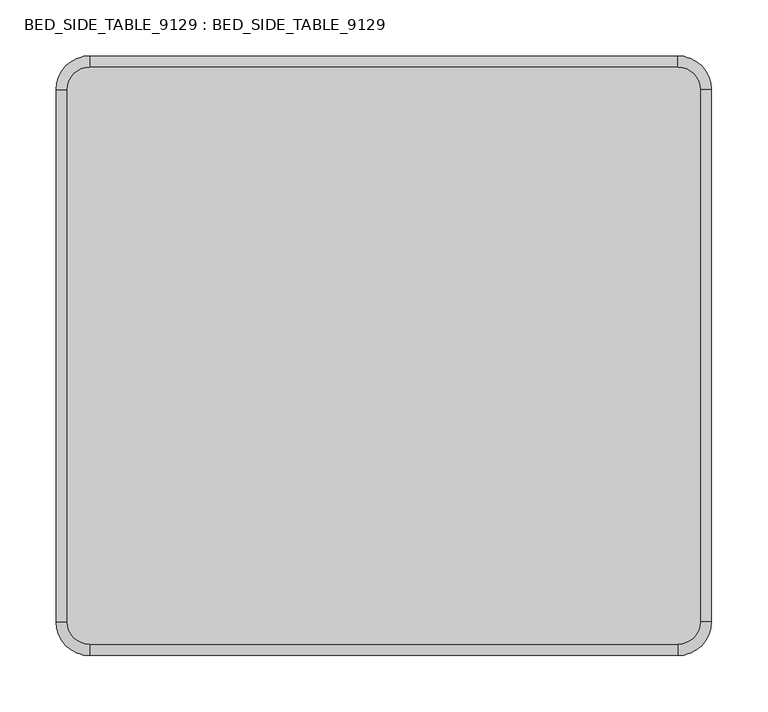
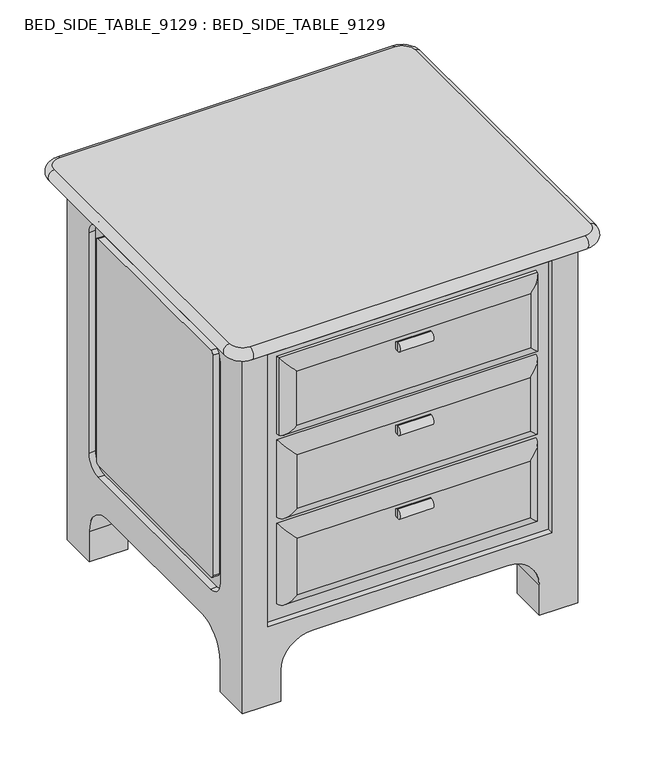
"""IFC4 building model written with IfcOpenShell, lengths in millimetres: furniture geometry, BED_SIDE_TABLE_9129 : BED_SIDE_TABLE_9129."""

from ifc_helpers import new_model, si_unit, point, frame, origin, place, context, project, spatial, polyline, circle_curve, ellipse_curve, trimmed, source, transform, mapped, element, save
from ifc_brep_helpers import plane_surface, cylinder_surface, revolved_surface, advanced_brep


def bed_side_table_9129_bed_side_table_9129_b31ec6e2(model_context):
    return source(origin(), model_context, "Body", "AdvancedBrep", [
        advanced_brep(
        [(64.1710576, -215.7220246, 258.3333333), (64.1710576, -215.7220246, 265.7120474), (64.1710576, -215.7220246, 250.9546193), (11.6566154, -215.7220246, 250.9546193), (11.6566154, -215.7220246, 265.7120474), (11.6566154, -215.7220246, 258.3333333)],
        [
            (0, 1),
            (1, 2, circle_curve(frame((64.1710576, -215.7220246, 258.3333333), z_axis=(1.0, 0.0, 0.0), x_axis=(0.0, 0.0, 1.0)), 7.378714)),
            (2, 0),
            (2, 1, circle_curve(frame((64.1710576, -215.7220246, 258.3333333), z_axis=(1.0, 0.0, 0.0), x_axis=(0.0, 0.0, 1.0)), 7.378714)),
            (3, 4, circle_curve(frame((11.6566154, -215.7220246, 258.3333333), z_axis=(-1.0, 0.0, 0.0), x_axis=(0.0, 0.0, 1.0)), 7.378714)),
            (4, 5),
            (5, 3),
            (4, 3, circle_curve(frame((11.6566154, -215.7220246, 258.3333333), z_axis=(-1.0, 0.0, 0.0), x_axis=(0.0, 0.0, 1.0)), 7.378714)),
            (1, 4),
            (3, 2),
        ],
        [
            plane_surface(frame((64.1710576, -215.7220246, 258.3333333), z_axis=(1.0, 0.0, 0.0), x_axis=(0.0, 0.0, 1.0))),
            plane_surface(frame((11.6566154, -215.7220246, 258.3333333), z_axis=(-1.0, 0.0, 0.0), x_axis=(0.0, 0.0, 1.0))),
            cylinder_surface(frame((36.6566154, -215.7220246, 258.3333333), z_axis=(1.0, 0.0, 0.0), x_axis=(0.0, 0.0, 1.0)), 7.378714),
        ],
        [
            (0, [[1, 2, 3]]),
            (0, [[-3, 4, -1]]),
            (1, [[5, 6, 7]]),
            (1, [[8, -7, -6]]),
            (2, [[-2, 9, -5, 10]]),
            (2, [[-4, -10, -8, -9]]),
        ],
    ),
        advanced_brep(
        [(64.1710576, -215.7220246, 396.6666667), (64.1710576, -215.7220246, 404.0453807), (64.1710576, -215.7220246, 389.2879526), (11.6566154, -215.7220246, 389.2879526), (11.6566154, -215.7220246, 404.0453807), (11.6566154, -215.7220246, 396.6666667)],
        [
            (0, 1),
            (1, 2, circle_curve(frame((64.1710576, -215.7220246, 396.6666667), z_axis=(1.0, 0.0, 0.0), x_axis=(0.0, 0.0, 1.0)), 7.378714)),
            (2, 0),
            (2, 1, circle_curve(frame((64.1710576, -215.7220246, 396.6666667), z_axis=(1.0, 0.0, 0.0), x_axis=(0.0, 0.0, 1.0)), 7.378714)),
            (3, 4, circle_curve(frame((11.6566154, -215.7220246, 396.6666667), z_axis=(-1.0, 0.0, 0.0), x_axis=(0.0, 0.0, 1.0)), 7.378714)),
            (4, 5),
            (5, 3),
            (4, 3, circle_curve(frame((11.6566154, -215.7220246, 396.6666667), z_axis=(-1.0, 0.0, 0.0), x_axis=(0.0, 0.0, 1.0)), 7.378714)),
            (1, 4),
            (3, 2),
        ],
        [
            plane_surface(frame((64.1710576, -215.7220246, 396.6666667), z_axis=(1.0, 0.0, 0.0), x_axis=(0.0, 0.0, 1.0))),
            plane_surface(frame((11.6566154, -215.7220246, 396.6666667), z_axis=(-1.0, 0.0, 0.0), x_axis=(0.0, 0.0, 1.0))),
            cylinder_surface(frame((36.6566154, -215.7220246, 396.6666667), z_axis=(1.0, 0.0, 0.0), x_axis=(0.0, 0.0, 1.0)), 7.378714),
        ],
        [
            (0, [[1, 2, 3]]),
            (0, [[-3, 4, -1]]),
            (1, [[5, 6, 7]]),
            (1, [[8, -7, -6]]),
            (2, [[-2, 9, -5, 10]]),
            (2, [[-4, -10, -8, -9]]),
        ],
    ),
        advanced_brep(
        [(64.1710576, -215.7220246, 535.0), (64.1710576, -215.7220246, 542.378714), (64.1710576, -215.7220246, 527.621286), (11.6566154, -215.7220246, 527.621286), (11.6566154, -215.7220246, 542.378714), (11.6566154, -215.7220246, 535.0)],
        [
            (0, 1),
            (1, 2, circle_curve(frame((64.1710576, -215.7220246, 535.0), z_axis=(1.0, 0.0, 0.0), x_axis=(0.0, 0.0, 1.0)), 7.378714)),
            (2, 0),
            (2, 1, circle_curve(frame((64.1710576, -215.7220246, 535.0), z_axis=(1.0, 0.0, 0.0), x_axis=(0.0, 0.0, 1.0)), 7.378714)),
            (3, 4, circle_curve(frame((11.6566154, -215.7220246, 535.0), z_axis=(-1.0, 0.0, 0.0), x_axis=(0.0, 0.0, 1.0)), 7.378714)),
            (4, 5),
            (5, 3),
            (4, 3, circle_curve(frame((11.6566154, -215.7220246, 535.0), z_axis=(-1.0, 0.0, 0.0), x_axis=(0.0, 0.0, 1.0)), 7.378714)),
            (1, 4),
            (3, 2),
        ],
        [
            plane_surface(frame((64.1710576, -215.7220246, 535.0), z_axis=(1.0, 0.0, 0.0), x_axis=(0.0, 0.0, 1.0))),
            plane_surface(frame((11.6566154, -215.7220246, 535.0), z_axis=(-1.0, 0.0, 0.0), x_axis=(0.0, 0.0, 1.0))),
            cylinder_surface(frame((36.6566154, -215.7220246, 535.0), z_axis=(1.0, 0.0, 0.0), x_axis=(0.0, 0.0, 1.0)), 7.378714),
        ],
        [
            (0, [[1, 2, 3]]),
            (0, [[-3, 4, -1]]),
            (1, [[5, 6, 7]]),
            (1, [[8, -7, -6]]),
            (2, [[-2, 9, -5, 10]]),
            (2, [[-4, -10, -8, -9]]),
        ],
    ),
        advanced_brep(
        [(242.5, -190.0292073, 565.0), (242.5, -190.0292073, 436.6666667), (-162.5, -190.0292073, 436.6666667), (-162.5, -190.0292073, 565.0), (-143.0943818, -210.0292073, 545.5943818), (-143.0943818, -210.0292073, 456.0722849), (223.0943818, -210.0292073, 456.0722849), (223.0943818, -210.0292073, 545.5943818), (242.5, -194.8688336, 565.0), (242.5, -194.8688336, 436.6666667), (-162.5, -194.8688336, 436.6666667), (-162.5, -194.8688336, 565.0)],
        [
            (0, 1),
            (1, 2),
            (2, 3),
            (3, 0),
            (4, 5),
            (5, 6),
            (6, 7),
            (7, 4),
            (0, 8),
            (8, 9),
            (9, 1),
            (9, 10),
            (10, 2),
            (10, 11),
            (11, 3),
            (11, 8),
            (10, 5, ellipse_curve(frame((-143.0943818, -190.0292073, 456.0722849), z_axis=(-0.7071067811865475, 0.0, 0.7071067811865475), x_axis=(-0.7071067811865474, 0.0, -0.7071067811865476)), 28.2842712, 20.0)),
            (4, 11, ellipse_curve(frame((-143.0943818, -190.0292073, 545.5943818), z_axis=(-0.7071067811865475, 0.0, -0.7071067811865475), x_axis=(0.7071067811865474, 0.0, -0.7071067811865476)), 28.2842712, 20.0)),
            (9, 6, ellipse_curve(frame((223.0943818, -190.0292073, 456.0722849), z_axis=(-0.7071067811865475, 0.0, -0.7071067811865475), x_axis=(0.7071067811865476, 0.0, -0.7071067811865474)), 28.2842712, 20.0)),
            (8, 7, ellipse_curve(frame((223.0943818, -190.0292073, 545.5943818), z_axis=(0.7071067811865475, 0.0, -0.7071067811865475), x_axis=(0.7071067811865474, 0.0, 0.7071067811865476)), 28.2842712, 20.0)),
        ],
        [
            plane_surface(frame((242.5, -190.0292073, 565.0), z_axis=(0.0, 1.0, 0.0), x_axis=(0.0, 0.0, -1.0))),
            plane_surface(frame((242.5, -210.0292073, 565.0), z_axis=(0.0, -1.0, 0.0), x_axis=(0.0, 0.0, 1.0))),
            plane_surface(frame((242.5, -190.0292073, 565.0), z_axis=(1.0, 0.0, 0.0), x_axis=(0.0, -1.0, 0.0))),
            plane_surface(frame((242.5, -190.0292073, 436.6666667), z_axis=(0.0, 0.0, -1.0), x_axis=(0.0, -1.0, 0.0))),
            plane_surface(frame((-162.5, -190.0292073, 436.6666667), z_axis=(-1.0, 0.0, 0.0), x_axis=(0.0, -1.0, 0.0))),
            plane_surface(frame((-162.5, -190.0292073, 565.0), z_axis=(0.0, 0.0, 1.0), x_axis=(0.0, -1.0, 0.0))),
            cylinder_surface(frame((-143.0943818, -190.0292073, 565.0), z_axis=(0.0, 0.0, -1.0), x_axis=(0.0, -1.0, 0.0)), 20.0),
            cylinder_surface(frame((-162.5, -190.0292073, 456.0722849), z_axis=(1.0, 0.0, 0.0), x_axis=(0.0, -1.0, 0.0)), 20.0),
            cylinder_surface(frame((223.0943818, -190.0292073, 436.6666667), z_axis=(0.0, 0.0, 1.0), x_axis=(0.0, -1.0, 0.0)), 20.0),
            cylinder_surface(frame((242.5, -190.0292073, 545.5943818), z_axis=(-1.0, 0.0, 0.0), x_axis=(0.0, -1.0, 0.0)), 20.0),
        ],
        [
            (0, [[1, 2, 3, 4]]),
            (1, [[5, 6, 7, 8]]),
            (2, [[-1, 9, 10, 11]]),
            (3, [[-2, -11, 12, 13]]),
            (4, [[-3, -13, 14, 15]]),
            (5, [[-4, -15, 16, -9]]),
            (6, [[17, -5, 18, -14]]),
            (7, [[19, -6, -17, -12]]),
            (8, [[20, -7, -19, -10]]),
            (9, [[-20, -16, -18, -8]]),
        ],
    ),
        advanced_brep(
        [(-162.5, -190.0292073, 298.3333333), (-162.5, -190.0292073, 426.6666667), (242.5, -190.0292073, 426.6666667), (242.5, -190.0292073, 298.3333333), (-142.5, -210.0292073, 406.6666667), (-142.5, -210.0292073, 318.3333333), (222.5, -210.0292073, 318.3333333), (222.5, -210.0292073, 406.6666667)],
        [
            (0, 1),
            (1, 2),
            (2, 3),
            (3, 0),
            (4, 5),
            (5, 6),
            (6, 7),
            (7, 4),
            (0, 5, ellipse_curve(frame((-142.5, -190.0292073, 318.3333333), z_axis=(-0.7071067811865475, 0.0, 0.7071067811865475), x_axis=(-0.7071067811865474, 0.0, -0.7071067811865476)), 28.2842712, 20.0)),
            (4, 1, ellipse_curve(frame((-142.5, -190.0292073, 406.6666667), z_axis=(-0.7071067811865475, 0.0, -0.7071067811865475), x_axis=(0.7071067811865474, 0.0, -0.7071067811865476)), 28.2842712, 20.0)),
            (3, 6, ellipse_curve(frame((222.5, -190.0292073, 318.3333333), z_axis=(-0.7071067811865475, 0.0, -0.7071067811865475), x_axis=(0.7071067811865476, 0.0, -0.7071067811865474)), 28.2842712, 20.0)),
            (2, 7, ellipse_curve(frame((222.5, -190.0292073, 406.6666667), z_axis=(0.7071067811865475, 0.0, -0.7071067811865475), x_axis=(0.7071067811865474, 0.0, 0.7071067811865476)), 28.2842712, 20.0)),
        ],
        [
            plane_surface(frame((242.5, -190.0292073, 565.0), z_axis=(0.0, 1.0, 0.0), x_axis=(0.0, 0.0, -1.0))),
            plane_surface(frame((242.5, -210.0292073, 565.0), z_axis=(0.0, -1.0, 0.0), x_axis=(0.0, 0.0, 1.0))),
            cylinder_surface(frame((-142.5, -190.0292073, 426.6666667), z_axis=(0.0, 0.0, -1.0), x_axis=(0.0, -1.0, 0.0)), 20.0),
            cylinder_surface(frame((-162.5, -190.0292073, 318.3333333), z_axis=(1.0, 0.0, 0.0), x_axis=(0.0, -1.0, 0.0)), 20.0),
            cylinder_surface(frame((222.5, -190.0292073, 298.3333333), z_axis=(0.0, 0.0, 1.0), x_axis=(0.0, -1.0, 0.0)), 20.0),
            cylinder_surface(frame((242.5, -190.0292073, 406.6666667), z_axis=(-1.0, 0.0, 0.0), x_axis=(0.0, -1.0, 0.0)), 20.0),
        ],
        [
            (0, [[1, 2, 3, 4]]),
            (1, [[5, 6, 7, 8]]),
            (2, [[9, -5, 10, -1]]),
            (3, [[-9, -4, 11, -6]]),
            (4, [[-11, -3, 12, -7]]),
            (5, [[-10, -8, -12, -2]]),
        ],
    ),
        advanced_brep(
        [(-162.5, -190.0292073, 155.0), (-162.5, -190.0292073, 288.3333333), (242.5, -190.0292073, 288.3333333), (242.5, -190.0292073, 155.0), (-142.5, -210.0292073, 268.3333333), (-142.5, -210.0292073, 175.0), (222.5, -210.0292073, 175.0), (222.5, -210.0292073, 268.3333333)],
        [
            (0, 1),
            (1, 2),
            (2, 3),
            (3, 0),
            (4, 5),
            (5, 6),
            (6, 7),
            (7, 4),
            (0, 5, ellipse_curve(frame((-142.5, -190.0292073, 175.0), z_axis=(-0.7071067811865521, 0.0, 0.7071067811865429), x_axis=(-0.7071067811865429, 0.0, -0.7071067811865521)), 28.2842712, 20.0)),
            (4, 1, ellipse_curve(frame((-142.5, -190.0292073, 268.3333333), z_axis=(-0.707106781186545, 0.0, -0.7071067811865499), x_axis=(0.7071067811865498, 0.0, -0.7071067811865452)), 28.2842712, 20.0)),
            (3, 6, ellipse_curve(frame((222.5, -190.0292073, 175.0), z_axis=(-0.7071067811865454, 0.0, -0.7071067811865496), x_axis=(0.7071067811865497, 0.0, -0.7071067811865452)), 28.2842712, 20.0)),
            (2, 7, ellipse_curve(frame((222.5, -190.0292073, 268.3333333), z_axis=(0.7071067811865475, 0.0, -0.7071067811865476), x_axis=(0.7071067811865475, 0.0, 0.7071067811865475)), 28.2842712, 20.0)),
        ],
        [
            plane_surface(frame((242.5, -190.0292073, 565.0), z_axis=(0.0, 1.0, 0.0), x_axis=(0.0, 0.0, -1.0))),
            plane_surface(frame((242.5, -210.0292073, 565.0), z_axis=(0.0, -1.0, 0.0), x_axis=(0.0, 0.0, 1.0))),
            cylinder_surface(frame((-142.5, -190.0292073, 288.3333333), z_axis=(0.0, 0.0, -1.0), x_axis=(0.0, -1.0, 0.0)), 20.0),
            cylinder_surface(frame((-162.5, -190.0292073, 175.0), z_axis=(1.0, 0.0, 0.0), x_axis=(0.0, -1.0, 0.0)), 20.0),
            cylinder_surface(frame((222.5, -190.0292073, 155.0), z_axis=(0.0, 0.0, 1.0), x_axis=(0.0, -1.0, 0.0)), 20.0),
            cylinder_surface(frame((242.5, -190.0292073, 268.3333333), z_axis=(-1.0, 0.0, 0.0), x_axis=(0.0, -1.0, 0.0)), 20.0),
        ],
        [
            (0, [[1, 2, 3, 4]]),
            (1, [[5, 6, 7, 8]]),
            (2, [[9, -5, 10, -1]]),
            (3, [[-9, -4, 11, -6]]),
            (4, [[-11, -3, 12, -7]]),
            (5, [[-10, -8, -12, -2]]),
        ],
    ),
        advanced_brep(
        [(-242.5, 274.9707927, 600.0), (-222.5, 294.9707927, 600.0), (302.5, 294.9707927, 600.0), (322.5, 274.9707927, 600.0), (322.5, -200.0292073, 600.0), (302.5, -220.0292073, 600.0), (-222.5, -220.0292073, 600.0), (-242.5, -200.0292073, 600.0), (-222.5, 294.9707927, 620.0), (-242.5, 274.9707927, 620.0), (-242.5, -200.0292073, 620.0), (-222.5, -220.0292073, 620.0), (302.5, -220.0292073, 620.0), (322.5, -200.0292073, 620.0), (322.5, 274.9707927, 620.0), (302.5, 294.9707927, 620.0), (-222.5, 304.9707927, 610.0000125), (-252.5, 274.9707927, 610.0000126), (-252.5, -200.0292073, 610.0), (-222.5, -230.0292073, 610.0000126), (302.5, -230.0292073, 610.0), (332.5, -200.0292073, 610.0000125), (332.5, 274.9707927, 610.0), (302.5, 304.9707927, 610.00001)],
        [
            (0, 1, circle_curve(frame((-222.5, 274.9707927, 600.0), z_axis=(0.0, 0.0, -1.0), x_axis=(0.0, 1.0, 0.0)), 20.0)),
            (1, 2),
            (2, 3, circle_curve(frame((302.5, 274.9707927, 600.0), z_axis=(0.0, 0.0, -1.0), x_axis=(1.0, 0.0, 0.0)), 20.0)),
            (3, 4),
            (4, 5, circle_curve(frame((302.5, -200.0292073, 600.0), z_axis=(0.0, 0.0, -1.0), x_axis=(0.0, -1.0, 0.0)), 20.0)),
            (5, 6),
            (6, 7, circle_curve(frame((-222.5, -200.0292073, 600.0), z_axis=(0.0, 0.0, -1.0), x_axis=(-1.0, 0.0, 0.0)), 20.0)),
            (7, 0),
            (8, 9, circle_curve(frame((-222.5, 274.9707927, 620.0), z_axis=(0.0, 0.0, 1.0), x_axis=(0.0, 1.0, 0.0)), 20.0)),
            (9, 10),
            (10, 11, circle_curve(frame((-222.5, -200.0292073, 620.0), z_axis=(0.0, 0.0, 1.0), x_axis=(-1.0, 0.0, 0.0)), 20.0)),
            (11, 12),
            (12, 13, circle_curve(frame((302.5, -200.0292073, 620.0), z_axis=(0.0, 0.0, 1.0), x_axis=(0.0, -1.0, 0.0)), 20.0)),
            (13, 14),
            (14, 15, circle_curve(frame((302.5, 274.9707927, 620.0), z_axis=(0.0, 0.0, 1.0), x_axis=(1.0, 0.0, 0.0)), 20.0)),
            (15, 8),
            (8, 16, circle_curve(frame((-222.5, 294.9707927, 610.0), z_axis=(-1.0, 0.0, 0.0), x_axis=(0.0, -1.0, 0.0)), 10.0)),
            (16, 1, circle_curve(frame((-222.5, 294.9707927, 610.0), z_axis=(-1.0, 0.0, 0.0), x_axis=(0.0, -1.0, 0.0)), 10.0)),
            (0, 17, circle_curve(frame((-242.5, 274.9707927, 610.0), z_axis=(0.0, 1.0, 0.0), x_axis=(1.0, 0.0, 0.0)), 10.0)),
            (17, 9, circle_curve(frame((-242.5, 274.9707927, 610.0), z_axis=(0.0, 1.0, 0.0), x_axis=(1.0, 0.0, 0.0)), 10.0)),
            (7, 18, circle_curve(frame((-242.5, -200.0292073, 610.0), z_axis=(0.0, 1.0, 0.0), x_axis=(1.0, 0.0, 0.0)), 10.0)),
            (18, 10, circle_curve(frame((-242.5, -200.0292073, 610.0), z_axis=(0.0, 1.0, 0.0), x_axis=(1.0, 0.0, 0.0)), 10.0)),
            (6, 19, circle_curve(frame((-222.5, -220.0292073, 610.0), z_axis=(-1.0, 0.0, 0.0), x_axis=(0.0, 1.0, 0.0)), 10.0)),
            (19, 11, circle_curve(frame((-222.5, -220.0292073, 610.0), z_axis=(-1.0, 0.0, 0.0), x_axis=(0.0, 1.0, 0.0)), 10.0)),
            (5, 20, circle_curve(frame((302.5, -220.0292073, 610.0), z_axis=(-1.0, 0.0, 0.0), x_axis=(0.0, 1.0, 0.0)), 10.0)),
            (20, 12, circle_curve(frame((302.5, -220.0292073, 610.0), z_axis=(-1.0, 0.0, 0.0), x_axis=(0.0, 1.0, 0.0)), 10.0)),
            (4, 21, circle_curve(frame((322.5, -200.0292073, 610.0), z_axis=(0.0, -1.0, 0.0), x_axis=(-1.0, 0.0, 0.0)), 10.0)),
            (21, 13, circle_curve(frame((322.5, -200.0292073, 610.0), z_axis=(0.0, -1.0, 0.0), x_axis=(-1.0, 0.0, 0.0)), 10.0)),
            (3, 22, circle_curve(frame((322.5, 274.9707927, 610.0), z_axis=(0.0, -1.0, 0.0), x_axis=(-1.0, 0.0, 0.0)), 10.0)),
            (22, 14, circle_curve(frame((322.5, 274.9707927, 610.0), z_axis=(0.0, -1.0, 0.0), x_axis=(-1.0, 0.0, 0.0)), 10.0)),
            (2, 23, circle_curve(frame((302.5, 294.9707927, 610.0), z_axis=(1.0, 0.0, 0.0), x_axis=(0.0, -1.0, 0.0)), 10.0)),
            (23, 15, circle_curve(frame((302.5, 294.9707927, 610.0), z_axis=(1.0, 0.0, 0.0), x_axis=(0.0, -1.0, 0.0)), 10.0)),
        ],
        [
            plane_surface(frame((-222.5, 304.9707927, 600.0), z_axis=(0.0, 0.0, -1.0), x_axis=(1.0, 0.0, 0.0))),
            plane_surface(frame((-222.5, 304.9707927, 620.0), z_axis=(0.0, 0.0, 1.0), x_axis=(-1.0, 0.0, 0.0))),
            revolved_surface(trimmed(ellipse_curve(frame((-222.5, 294.9707927, 610.0), z_axis=(1.0, 0.0, 0.0), x_axis=(0.0, -1.0, 0.0)), 10.0, 10.0), [point((-222.5, 294.9707927, 600.0))], [point((-222.5, 294.9707927, 620.0))], True, "CARTESIAN"), (-222.5, 274.9707927, 620.0), (0.0, 0.0, 1.0)),
            cylinder_surface(frame((-242.5, 274.9707927, 610.0), z_axis=(0.0, -1.0, 0.0), x_axis=(1.0, 0.0, 0.0)), 10.0),
            revolved_surface(trimmed(ellipse_curve(frame((-242.5, -200.0292073, 610.0), z_axis=(0.0, 1.0, 0.0), x_axis=(1.0, 0.0, 0.0)), 10.0, 10.0), [point((-242.5, -200.0292073, 600.0))], [point((-242.5, -200.0292073, 620.0))], True, "CARTESIAN"), (-222.5, -200.0292073, 620.0), (0.0, 0.0, 1.0)),
            cylinder_surface(frame((-222.5, -220.0292073, 610.0), z_axis=(1.0, 0.0, 0.0), x_axis=(0.0, 1.0, 0.0)), 10.0),
            revolved_surface(trimmed(ellipse_curve(frame((302.5, -220.0292073, 610.0), z_axis=(-1.0, 0.0, 0.0), x_axis=(0.0, 1.0, 0.0)), 10.0, 10.0), [point((302.5, -220.0292073, 600.0))], [point((302.5, -220.0292073, 620.0))], True, "CARTESIAN"), (302.5, -200.0292073, 620.0), (0.0, 0.0, 1.0)),
            cylinder_surface(frame((322.5, -200.0292073, 610.0), z_axis=(0.0, 1.0, 0.0), x_axis=(-1.0, 0.0, 0.0)), 10.0),
            revolved_surface(trimmed(ellipse_curve(frame((322.5, 274.9707927, 610.0), z_axis=(0.0, -1.0, 0.0), x_axis=(-1.0, 0.0, 0.0)), 10.0, 10.0), [point((322.5, 274.9707927, 600.0))], [point((322.5, 274.9707927, 620.0))], True, "CARTESIAN"), (302.5, 274.9707927, 620.0), (0.0, 0.0, 1.0)),
            cylinder_surface(frame((302.5, 294.9707927, 610.0), z_axis=(-1.0, 0.0, 0.0), x_axis=(0.0, -1.0, 0.0)), 10.0),
        ],
        [
            (0, [[1, 2, 3, 4, 5, 6, 7, 8]]),
            (1, [[9, 10, 11, 12, 13, 14, 15, 16]]),
            (2, [[17, 18, -1, 19, 20, -9]]),
            (3, [[-19, -8, 21, 22, -10, -20]]),
            (4, [[-21, -7, 23, 24, -11, -22]]),
            (5, [[-23, -6, 25, 26, -12, -24]]),
            (6, [[-25, -5, 27, 28, -13, -26]]),
            (7, [[-27, -4, 29, 30, -14, -28]]),
            (8, [[31, 32, -15, -30, -29, -3]]),
            (9, [[-31, -2, -18, -17, -16, -32]]),
        ],
    ),
        advanced_brep(
        [(302.5, 274.9707927, 600.0), (302.5, 274.9707927, 0.0), (242.5, 274.9707927, 0.0), (242.5, 274.9707927, 50.0), (192.5, 274.9707927, 100.0), (-112.5, 274.9707927, 100.0), (-162.5, 274.9707927, 50.0), (-162.5, 274.9707927, 0.0), (-222.5, 274.9707927, 0.0), (-222.5, 274.9707927, 600.0), (302.5, -200.0292073, 600.0), (-222.5, -200.0292073, 600.0), (-222.5, -200.0292073, 0.0), (-162.5, -200.0292073, 0.0), (-162.5, -200.0292073, 50.0), (-112.5, -200.0292073, 100.0), (192.5, -200.0292073, 100.0), (242.5, -200.0292073, 50.0), (242.5, -200.0292073, 0.0), (302.5, -200.0292073, 0.0), (-182.5, -200.0292073, 580.0), (262.5, -200.0292073, 580.0), (262.5, -200.0292073, 130.0), (-182.5, -200.0292073, 130.0), (302.5, -140.0292073, 0.0), (302.5, -140.0292073, 50.0), (302.5, -90.0292073, 100.0), (302.5, 164.9707927, 100.0), (302.5, 214.9707927, 50.0), (302.5, 214.9707927, 0.0), (302.5, -115.0292073, 570.0), (302.5, 189.9707927, 570.0), (302.5, 214.9707927, 545.0), (302.5, 214.9707927, 180.0), (302.5, 189.9707927, 155.0), (302.5, -115.0292073, 155.0), (302.5, -140.0292073, 180.0), (302.5, -140.0292073, 545.0), (302.5, 189.9707927, 550.0), (302.5, -115.0292073, 550.0), (302.5, -120.0292073, 545.0), (302.5, -120.0292073, 180.0), (302.5, -115.0292073, 175.0), (302.5, 189.9707927, 175.0), (302.5, 194.9707927, 180.0), (302.5, 194.9707927, 545.0), (242.5, 214.9707927, 0.0), (-162.5, 214.9707927, 0.0), (-222.5, 214.9707927, 0.0), (-222.5, -140.0292073, 0.0), (-162.5, -140.0292073, 0.0), (242.5, -140.0292073, 0.0), (-222.5, 214.9707927, 50.0), (-222.5, 164.9707927, 100.0), (-222.5, -90.0292073, 100.0), (-222.5, -140.0292073, 50.0), (-222.5, 189.9707927, 570.0), (-222.5, -115.0292073, 570.0), (-222.5, -140.0292073, 545.0), (-222.5, -140.0292073, 180.0), (-222.5, -115.0292073, 155.0), (-222.5, 189.9707927, 155.0), (-222.5, 214.9707927, 180.0), (-222.5, 214.9707927, 545.0), (-222.5, -115.0292073, 550.0), (-222.5, 189.9707927, 550.0), (-222.5, 194.9707927, 545.0), (-222.5, 194.9707927, 180.0), (-222.5, 189.9707927, 175.0), (-222.5, -115.0292073, 175.0), (-222.5, -120.0292073, 180.0), (-222.5, -120.0292073, 545.0), (-112.5, 164.9707927, 100.0), (-162.5, 214.9707927, 50.0), (-162.5, -140.0292073, 50.0), (-112.5, -90.0292073, 100.0), (192.5, 164.9707927, 100.0), (192.5, -90.0292073, 100.0), (242.5, 214.9707927, 50.0), (242.5, -140.0292073, 50.0), (-182.5, -190.0292073, 580.0), (-182.5, -190.0292073, 130.0), (262.5, -190.0292073, 130.0), (262.5, -190.0292073, 580.0), (292.5, 189.9707927, 570.0), (292.5, -115.0292073, 570.0), (292.5, -140.0292073, 545.0), (292.5, -140.0292073, 180.0), (292.5, -115.0292073, 155.0), (292.5, 189.9707927, 155.0), (292.5, 214.9707927, 180.0), (292.5, 214.9707927, 545.0), (292.5, -115.0292073, 550.0), (292.5, 189.9707927, 550.0), (292.5, 194.9707927, 545.0), (292.5, 194.9707927, 180.0), (292.5, 189.9707927, 175.0), (292.5, -115.0292073, 175.0), (292.5, -120.0292073, 180.0), (292.5, -120.0292073, 545.0), (-212.5, 189.9707927, 570.0), (-212.5, 214.9707927, 545.0), (-212.5, 214.9707927, 180.0), (-212.5, 189.9707927, 155.0), (-212.5, -115.0292073, 155.0), (-212.5, -140.0292073, 180.0), (-212.5, -140.0292073, 545.0), (-212.5, -115.0292073, 570.0), (-212.5, -115.0292073, 550.0), (-212.5, -120.0292073, 545.0), (-212.5, -120.0292073, 180.0), (-212.5, -115.0292073, 175.0), (-212.5, 189.9707927, 175.0), (-212.5, 194.9707927, 180.0), (-212.5, 194.9707927, 545.0), (-212.5, 189.9707927, 550.0)],
        [
            (0, 1),
            (1, 2),
            (2, 3),
            (3, 4, circle_curve(frame((192.5, 274.9707927, 50.0), z_axis=(0.0, -1.0, 0.0), x_axis=(-1.0, 0.0, 0.0)), 50.0)),
            (4, 5),
            (5, 6, circle_curve(frame((-112.5, 274.9707927, 50.0), z_axis=(0.0, -1.0, 0.0), x_axis=(-1.0, 0.0, 0.0)), 50.0)),
            (6, 7),
            (7, 8),
            (8, 9),
            (9, 0),
            (10, 11),
            (11, 12),
            (12, 13),
            (13, 14),
            (14, 15, circle_curve(frame((-112.5, -200.0292073, 50.0), z_axis=(0.0, 1.0, 0.0), x_axis=(-1.0, 0.0, 0.0)), 50.0)),
            (15, 16),
            (16, 17, circle_curve(frame((192.5, -200.0292073, 50.0), z_axis=(0.0, 1.0, 0.0), x_axis=(-1.0, 0.0, 0.0)), 50.0)),
            (17, 18),
            (18, 19),
            (19, 10),
            (20, 21),
            (21, 22),
            (22, 23),
            (23, 20),
            (0, 10),
            (19, 24),
            (24, 25),
            (25, 26, circle_curve(frame((302.5, -90.0292073, 50.0), z_axis=(-1.0, 0.0, 0.0), x_axis=(0.0, 1.0, 0.0)), 50.0)),
            (26, 27),
            (27, 28, circle_curve(frame((302.5, 164.9707927, 50.0), z_axis=(-1.0, 0.0, 0.0), x_axis=(0.0, 1.0, 0.0)), 50.0)),
            (28, 29),
            (29, 1),
            (30, 31),
            (31, 32, circle_curve(frame((302.5, 189.9707927, 545.0), z_axis=(-1.0, 0.0, 0.0), x_axis=(0.0, 1.0, 0.0)), 25.0)),
            (32, 33),
            (33, 34, circle_curve(frame((302.5, 189.9707927, 180.0), z_axis=(-1.0, 0.0, 0.0), x_axis=(0.0, 1.0, 0.0)), 25.0)),
            (34, 35),
            (35, 36, circle_curve(frame((302.5, -115.0292073, 180.0), z_axis=(-1.0, 0.0, 0.0), x_axis=(0.0, 1.0, 0.0)), 25.0)),
            (36, 37),
            (37, 30, circle_curve(frame((302.5, -115.0292073, 545.0), z_axis=(-1.0, 0.0, 0.0), x_axis=(0.0, 1.0, 0.0)), 25.0)),
            (38, 39),
            (39, 40, circle_curve(frame((302.5, -115.0292073, 545.0), z_axis=(1.0, 0.0, 0.0), x_axis=(0.0, 1.0, 0.0)), 5.0)),
            (40, 41),
            (41, 42, circle_curve(frame((302.5, -115.0292073, 180.0), z_axis=(1.0, 0.0, 0.0), x_axis=(0.0, 1.0, 0.0)), 5.0)),
            (42, 43),
            (43, 44, circle_curve(frame((302.5, 189.9707927, 180.0), z_axis=(1.0, 0.0, 0.0), x_axis=(0.0, 1.0, 0.0)), 5.0)),
            (44, 45),
            (45, 38, circle_curve(frame((302.5, 189.9707927, 545.0), z_axis=(1.0, 0.0, 0.0), x_axis=(0.0, 1.0, 0.0)), 5.0)),
            (29, 46),
            (46, 2),
            (7, 47),
            (47, 48),
            (48, 8),
            (12, 49),
            (49, 50),
            (50, 13),
            (18, 51),
            (51, 24),
            (48, 52),
            (52, 53, circle_curve(frame((-222.5, 164.9707927, 50.0), z_axis=(1.0, 0.0, 0.0), x_axis=(0.0, 1.0, 0.0)), 50.0)),
            (53, 54),
            (54, 55, circle_curve(frame((-222.5, -90.0292073, 50.0), z_axis=(1.0, 0.0, 0.0), x_axis=(0.0, 1.0, 0.0)), 50.0)),
            (55, 49),
            (11, 9),
            (56, 57),
            (57, 58, circle_curve(frame((-222.5, -115.0292073, 545.0), z_axis=(1.0, 0.0, 0.0), x_axis=(0.0, 1.0, 0.0)), 25.0)),
            (58, 59),
            (59, 60, circle_curve(frame((-222.5, -115.0292073, 180.0), z_axis=(1.0, 0.0, 0.0), x_axis=(0.0, 1.0, 0.0)), 25.0)),
            (60, 61),
            (61, 62, circle_curve(frame((-222.5, 189.9707927, 180.0), z_axis=(1.0, 0.0, 0.0), x_axis=(0.0, 1.0, 0.0)), 25.0)),
            (62, 63),
            (63, 56, circle_curve(frame((-222.5, 189.9707927, 545.0), z_axis=(1.0, 0.0, 0.0), x_axis=(0.0, 1.0, 0.0)), 25.0)),
            (64, 65),
            (65, 66, circle_curve(frame((-222.5, 189.9707927, 545.0), z_axis=(-1.0, 0.0, 0.0), x_axis=(0.0, 1.0, 0.0)), 5.0)),
            (66, 67),
            (67, 68, circle_curve(frame((-222.5, 189.9707927, 180.0), z_axis=(-1.0, 0.0, 0.0), x_axis=(0.0, 1.0, 0.0)), 5.0)),
            (68, 69),
            (69, 70, circle_curve(frame((-222.5, -115.0292073, 180.0), z_axis=(-1.0, 0.0, 0.0), x_axis=(0.0, 1.0, 0.0)), 5.0)),
            (70, 71),
            (71, 64, circle_curve(frame((-222.5, -115.0292073, 545.0), z_axis=(-1.0, 0.0, 0.0), x_axis=(0.0, 1.0, 0.0)), 5.0)),
            (5, 72),
            (72, 73, ellipse_curve(frame((-112.5, 164.9707927, 50.0), z_axis=(-0.7071067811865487, -0.7071067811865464, 0.0), x_axis=(-0.7071067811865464, 0.7071067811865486, 0.0)), 70.7106781, 50.0)),
            (73, 6),
            (14, 74),
            (74, 75, ellipse_curve(frame((-112.5, -90.0292073, 50.0), z_axis=(-0.7071067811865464, 0.7071067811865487, 0.0), x_axis=(0.7071067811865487, 0.7071067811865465, 0.0)), 70.7106781, 50.0)),
            (75, 15),
            (4, 76),
            (76, 27),
            (26, 77),
            (77, 16),
            (75, 54),
            (53, 72),
            (3, 78),
            (78, 76, ellipse_curve(frame((192.5, 164.9707927, 50.0), z_axis=(0.7071067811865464, -0.7071067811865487, 0.0), x_axis=(0.7071067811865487, 0.7071067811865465, 0.0)), 70.7106781, 50.0)),
            (77, 79, ellipse_curve(frame((192.5, -90.0292073, 50.0), z_axis=(0.7071067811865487, 0.7071067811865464, 0.0), x_axis=(-0.7071067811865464, 0.7071067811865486, 0.0)), 70.7106781, 50.0)),
            (79, 17),
            (46, 78),
            (79, 51),
            (73, 47),
            (50, 74),
            (25, 79),
            (74, 55),
            (73, 52),
            (28, 78),
            (80, 81),
            (81, 82),
            (82, 83),
            (83, 80),
            (83, 21),
            (20, 80),
            (82, 22),
            (81, 23),
            (84, 85),
            (85, 86, circle_curve(frame((292.5, -115.0292073, 545.0), z_axis=(1.0, 0.0, 0.0), x_axis=(0.0, 1.0, 0.0)), 25.0)),
            (86, 87),
            (87, 88, circle_curve(frame((292.5, -115.0292073, 180.0), z_axis=(1.0, 0.0, 0.0), x_axis=(0.0, 1.0, 0.0)), 25.0)),
            (88, 89),
            (89, 90, circle_curve(frame((292.5, 189.9707927, 180.0), z_axis=(1.0, 0.0, 0.0), x_axis=(0.0, 1.0, 0.0)), 25.0)),
            (90, 91),
            (91, 84, circle_curve(frame((292.5, 189.9707927, 545.0), z_axis=(1.0, 0.0, 0.0), x_axis=(0.0, 1.0, 0.0)), 25.0)),
            (92, 93),
            (93, 94, circle_curve(frame((292.5, 189.9707927, 545.0), z_axis=(-1.0, 0.0, 0.0), x_axis=(0.0, 1.0, 0.0)), 5.0)),
            (94, 95),
            (95, 96, circle_curve(frame((292.5, 189.9707927, 180.0), z_axis=(-1.0, 0.0, 0.0), x_axis=(0.0, 1.0, 0.0)), 5.0)),
            (96, 97),
            (97, 98, circle_curve(frame((292.5, -115.0292073, 180.0), z_axis=(-1.0, 0.0, 0.0), x_axis=(0.0, 1.0, 0.0)), 5.0)),
            (98, 99),
            (99, 92, circle_curve(frame((292.5, -115.0292073, 545.0), z_axis=(-1.0, 0.0, 0.0), x_axis=(0.0, 1.0, 0.0)), 5.0)),
            (84, 31),
            (30, 85),
            (37, 86),
            (36, 87),
            (35, 88),
            (34, 89),
            (33, 90),
            (32, 91),
            (92, 39),
            (38, 93),
            (45, 94),
            (44, 95),
            (43, 96),
            (42, 97),
            (41, 98),
            (40, 99),
            (100, 101, circle_curve(frame((-212.5, 189.9707927, 545.0), z_axis=(-1.0, 0.0, 0.0), x_axis=(0.0, 1.0, 0.0)), 25.0)),
            (101, 102),
            (102, 103, circle_curve(frame((-212.5, 189.9707927, 180.0), z_axis=(-1.0, 0.0, 0.0), x_axis=(0.0, 1.0, 0.0)), 25.0)),
            (103, 104),
            (104, 105, circle_curve(frame((-212.5, -115.0292073, 180.0), z_axis=(-1.0, 0.0, 0.0), x_axis=(0.0, 1.0, 0.0)), 25.0)),
            (105, 106),
            (106, 107, circle_curve(frame((-212.5, -115.0292073, 545.0), z_axis=(-1.0, 0.0, 0.0), x_axis=(0.0, 1.0, 0.0)), 25.0)),
            (107, 100),
            (108, 109, circle_curve(frame((-212.5, -115.0292073, 545.0), z_axis=(1.0, 0.0, 0.0), x_axis=(0.0, 1.0, 0.0)), 5.0)),
            (109, 110),
            (110, 111, circle_curve(frame((-212.5, -115.0292073, 180.0), z_axis=(1.0, 0.0, 0.0), x_axis=(0.0, 1.0, 0.0)), 5.0)),
            (111, 112),
            (112, 113, circle_curve(frame((-212.5, 189.9707927, 180.0), z_axis=(1.0, 0.0, 0.0), x_axis=(0.0, 1.0, 0.0)), 5.0)),
            (113, 114),
            (114, 115, circle_curve(frame((-212.5, 189.9707927, 545.0), z_axis=(1.0, 0.0, 0.0), x_axis=(0.0, 1.0, 0.0)), 5.0)),
            (115, 108),
            (107, 57),
            (56, 100),
            (106, 58),
            (105, 59),
            (104, 60),
            (103, 61),
            (102, 62),
            (101, 63),
            (115, 65),
            (64, 108),
            (114, 66),
            (113, 67),
            (112, 68),
            (111, 69),
            (110, 70),
            (109, 71),
        ],
        [
            plane_surface(frame((302.5, 274.9707927, 600.0), z_axis=(0.0, 1.0, 0.0), x_axis=(0.0, 0.0, -1.0))),
            plane_surface(frame((302.5, -200.0292073, 600.0), z_axis=(0.0, -1.0, 0.0), x_axis=(0.0, 0.0, 1.0))),
            plane_surface(frame((302.5, 274.9707927, 600.0), z_axis=(1.0, 0.0, 0.0), x_axis=(0.0, -1.0, 0.0))),
            plane_surface(frame((302.5, 274.9707927, 0.0), z_axis=(0.0, 0.0, -1.0), x_axis=(0.0, -1.0, 0.0))),
            plane_surface(frame((-222.5, 274.9707927, 0.0), z_axis=(-1.0, 0.0, 0.0), x_axis=(0.0, -1.0, 0.0))),
            plane_surface(frame((-222.5, 274.9707927, 600.0), z_axis=(0.0, 0.0, 1.0), x_axis=(0.0, -1.0, 0.0))),
            revolved_surface(polyline([(-162.5, 274.9707927, 50.0), (-162.5, 114.97079271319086, 50.0)]), (-112.5, -200.0292073, 50.0), (0.0, 1.0, 0.0)),
            revolved_surface(polyline([(-162.5, -40.029207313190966, 50.0), (-162.5, -200.0292073, 50.0)]), (-112.5, -200.0292073, 50.0), (0.0, 1.0, 0.0)),
            plane_surface(frame((-112.5, 274.9707927, 100.0), z_axis=(0.0, 0.0, -1.0), x_axis=(0.0, -1.0, 0.0))),
            revolved_surface(polyline([(142.5, 274.9707927, 50.0), (142.5, 114.97079271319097, 50.0)]), (192.5, -200.0292073, 50.0), (0.0, 1.0, 0.0)),
            revolved_surface(polyline([(142.5, -40.029207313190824, 50.0), (142.5, -200.0292073, 50.0)]), (192.5, -200.0292073, 50.0), (0.0, 1.0, 0.0)),
            plane_surface(frame((242.5, 274.9707927, 50.0), z_axis=(-1.0, 0.0, 0.0), x_axis=(0.0, -1.0, 0.0))),
            plane_surface(frame((-162.5, 274.9707927, 0.0), z_axis=(1.0, 0.0, 0.0), x_axis=(0.0, -1.0, 0.0))),
            revolved_surface(polyline([(302.5, -40.029207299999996, 50.0), (142.50000001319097, -40.029207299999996, 50.0)]), (-222.5, -90.0292073, 50.0), (1.0, 0.0, 0.0)),
            revolved_surface(polyline([(-62.50000001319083, -40.029207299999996, 50.0), (-222.5, -40.029207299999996, 50.0)]), (-222.5, -90.0292073, 50.0), (1.0, 0.0, 0.0)),
            plane_surface(frame((302.5, -140.0292073, 50.0), z_axis=(0.0, 1.0, 0.0), x_axis=(-1.0, 0.0, 0.0))),
            plane_surface(frame((302.5, 214.9707927, 0.0), z_axis=(0.0, -1.0, 0.0), x_axis=(-1.0, 0.0, 0.0))),
            revolved_surface(polyline([(302.5, 214.9707927, 50.0), (142.5000000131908, 214.9707927, 50.0)]), (-222.5, 164.9707927, 50.0), (1.0, 0.0, 0.0)),
            revolved_surface(polyline([(-62.500000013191, 214.9707927, 50.0), (-222.5, 214.9707927, 50.0)]), (-222.5, 164.9707927, 50.0), (1.0, 0.0, 0.0)),
            plane_surface(frame((-182.5, -190.0292073, 580.0), z_axis=(0.0, -1.0, 0.0), x_axis=(1.0, 0.0, 0.0))),
            plane_surface(frame((-182.5, -190.0292073, 580.0), z_axis=(0.0, 0.0, -1.0), x_axis=(0.0, -1.0, 0.0))),
            plane_surface(frame((262.5, -190.0292073, 580.0), z_axis=(-1.0, 0.0, 0.0), x_axis=(0.0, -1.0, 0.0))),
            plane_surface(frame((262.5, -190.0292073, 130.0), z_axis=(0.0, 0.0, 1.0), x_axis=(0.0, -1.0, 0.0))),
            plane_surface(frame((-182.5, -190.0292073, 130.0), z_axis=(1.0, 0.0, 0.0), x_axis=(0.0, -1.0, 0.0))),
            plane_surface(frame((292.5, -131.0273869, 570.0), z_axis=(1.0, 0.0, 0.0), x_axis=(0.0, 1.0, 0.0))),
            plane_surface(frame((302.5, 189.9707927, 570.0), z_axis=(0.0, 0.0, -1.0), x_axis=(-1.0, 0.0, 0.0))),
            revolved_surface(polyline([(302.5, -90.0292073, 545.0), (292.5, -90.0292073, 545.0)]), (292.5, -115.0292073, 545.0), (1.0, 0.0, 0.0)),
            plane_surface(frame((302.5, -140.0292073, 545.0), z_axis=(0.0, 1.0, 0.0), x_axis=(-1.0, 0.0, 0.0))),
            revolved_surface(polyline([(302.5, -90.0292073, 180.0), (292.5, -90.0292073, 180.0)]), (292.5, -115.0292073, 180.0), (1.0, 0.0, 0.0)),
            plane_surface(frame((302.5, -115.0292073, 155.0), z_axis=(0.0, 0.0, 1.0), x_axis=(-1.0, 0.0, 0.0))),
            revolved_surface(polyline([(302.5, 214.9707927, 180.0), (292.5, 214.9707927, 180.0)]), (292.5, 189.9707927, 180.0), (1.0, 0.0, 0.0)),
            plane_surface(frame((302.5, 214.9707927, 180.0), z_axis=(0.0, -1.0, 0.0), x_axis=(-1.0, 0.0, 0.0))),
            revolved_surface(polyline([(302.5, 214.9707927, 545.0), (292.5, 214.9707927, 545.0)]), (292.5, 189.9707927, 545.0), (1.0, 0.0, 0.0)),
            plane_surface(frame((302.5, -115.0292073, 550.0), z_axis=(0.0, 0.0, 1.0), x_axis=(-1.0, 0.0, 0.0))),
            cylinder_surface(frame((302.5, 189.9707927, 545.0), z_axis=(-1.0, 0.0, 0.0), x_axis=(0.0, 1.0, 0.0)), 5.0),
            plane_surface(frame((302.5, 194.9707927, 545.0), z_axis=(0.0, 1.0, 0.0), x_axis=(-1.0, 0.0, 0.0))),
            cylinder_surface(frame((302.5, 189.9707927, 180.0), z_axis=(-1.0, 0.0, 0.0), x_axis=(0.0, 1.0, 0.0)), 5.0),
            plane_surface(frame((302.5, 189.9707927, 175.0), z_axis=(0.0, 0.0, -1.0), x_axis=(-1.0, 0.0, 0.0))),
            cylinder_surface(frame((302.5, -115.0292073, 180.0), z_axis=(-1.0, 0.0, 0.0), x_axis=(0.0, 1.0, 0.0)), 5.0),
            plane_surface(frame((302.5, -120.0292073, 180.0), z_axis=(0.0, -1.0, 0.0), x_axis=(-1.0, 0.0, 0.0))),
            cylinder_surface(frame((302.5, -115.0292073, 545.0), z_axis=(-1.0, 0.0, 0.0), x_axis=(0.0, 1.0, 0.0)), 5.0),
            plane_surface(frame((-212.5, 214.9707927, 545.0), z_axis=(-1.0, 0.0, 0.0), x_axis=(0.0, 0.0, 1.0))),
            plane_surface(frame((-222.5, -115.0292073, 570.0), z_axis=(0.0, 0.0, -1.0), x_axis=(1.0, 0.0, 0.0))),
            revolved_surface(polyline([(-222.5, -90.0292073, 545.0), (-212.5, -90.0292073, 545.0)]), (-212.5, -115.0292073, 545.0), (-1.0, 0.0, 0.0)),
            plane_surface(frame((-222.5, -140.0292073, 180.0), z_axis=(0.0, 1.0, 0.0), x_axis=(1.0, 0.0, 0.0))),
            revolved_surface(polyline([(-222.5, -90.0292073, 180.0), (-212.5, -90.0292073, 180.0)]), (-212.5, -115.0292073, 180.0), (-1.0, 0.0, 0.0)),
            plane_surface(frame((-222.5, 189.9707927, 155.0), z_axis=(0.0, 0.0, 1.0), x_axis=(1.0, 0.0, 0.0))),
            revolved_surface(polyline([(-222.5, 214.9707927, 180.0), (-212.5, 214.9707927, 180.0)]), (-212.5, 189.9707927, 180.0), (-1.0, 0.0, 0.0)),
            plane_surface(frame((-222.5, 214.9707927, 545.0), z_axis=(0.0, -1.0, 0.0), x_axis=(1.0, 0.0, 0.0))),
            revolved_surface(polyline([(-222.5, 214.9707927, 545.0), (-212.5, 214.9707927, 545.0)]), (-212.5, 189.9707927, 545.0), (-1.0, 0.0, 0.0)),
            plane_surface(frame((-222.5, 189.9707927, 550.0), z_axis=(0.0, 0.0, 1.0), x_axis=(1.0, 0.0, 0.0))),
            cylinder_surface(frame((-222.5, 189.9707927, 545.0), z_axis=(1.0, 0.0, 0.0), x_axis=(0.0, 1.0, 0.0)), 5.0),
            plane_surface(frame((-222.5, 194.9707927, 180.0), z_axis=(0.0, 1.0, 0.0), x_axis=(1.0, 0.0, 0.0))),
            cylinder_surface(frame((-222.5, 189.9707927, 180.0), z_axis=(1.0, 0.0, 0.0), x_axis=(0.0, 1.0, 0.0)), 5.0),
            plane_surface(frame((-222.5, -115.0292073, 175.0), z_axis=(0.0, 0.0, -1.0), x_axis=(1.0, 0.0, 0.0))),
            cylinder_surface(frame((-222.5, -115.0292073, 180.0), z_axis=(1.0, 0.0, 0.0), x_axis=(0.0, 1.0, 0.0)), 5.0),
            plane_surface(frame((-222.5, -120.0292073, 545.0), z_axis=(0.0, -1.0, 0.0), x_axis=(1.0, 0.0, 0.0))),
            cylinder_surface(frame((-222.5, -115.0292073, 545.0), z_axis=(1.0, 0.0, 0.0), x_axis=(0.0, 1.0, 0.0)), 5.0),
        ],
        [
            (0, [[1, 2, 3, 4, 5, 6, 7, 8, 9, 10]]),
            (1, [[11, 12, 13, 14, 15, 16, 17, 18, 19, 20], [21, 22, 23, 24]]),
            (2, [[-1, 25, -20, 26, 27, 28, 29, 30, 31, 32], [33, 34, 35, 36, 37, 38, 39, 40]]),
            (2, [[41, 42, 43, 44, 45, 46, 47, 48]]),
            (3, [[-2, -32, 49, 50]]),
            (3, [[-8, 51, 52, 53]]),
            (3, [[-13, 54, 55, 56]]),
            (3, [[-19, 57, 58, -26]]),
            (4, [[-9, -53, 59, 60, 61, 62, 63, -54, -12, 64], [65, 66, 67, 68, 69, 70, 71, 72]]),
            (4, [[73, 74, 75, 76, 77, 78, 79, 80]]),
            (5, [[-10, -64, -11, -25]]),
            (6, [[-6, 81, 82, 83]]),
            (7, [[-15, 84, 85, 86]]),
            (8, [[-5, 87, 88, -29, 89, 90, -16, -86, 91, -61, 92, -81]]),
            (9, [[-4, 93, 94, -87]]),
            (10, [[-17, -90, 95, 96]]),
            (11, [[-3, -50, 97, -93]]),
            (11, [[-18, -96, 98, -57]]),
            (12, [[-7, -83, 99, -51]]),
            (12, [[-14, -56, 100, -84]]),
            (13, [[-89, -28, 101, -95]]),
            (14, [[102, -62, -91, -85]]),
            (15, [[-102, -100, -55, -63]]),
            (15, [[-101, -27, -58, -98]]),
            (16, [[103, -59, -52, -99]]),
            (16, [[104, -97, -49, -31]]),
            (17, [[-88, -94, -104, -30]]),
            (18, [[-103, -82, -92, -60]]),
            (19, [[105, 106, 107, 108]]),
            (20, [[-108, 109, -21, 110]]),
            (21, [[-107, 111, -22, -109]]),
            (22, [[-106, 112, -23, -111]]),
            (23, [[-105, -110, -24, -112]]),
            (24, [[113, 114, 115, 116, 117, 118, 119, 120], [121, 122, 123, 124, 125, 126, 127, 128]]),
            (25, [[-113, 129, -33, 130]]),
            (26, [[-114, -130, -40, 131]]),
            (27, [[-115, -131, -39, 132]]),
            (28, [[-116, -132, -38, 133]]),
            (29, [[-117, -133, -37, 134]]),
            (30, [[-118, -134, -36, 135]]),
            (31, [[-119, -135, -35, 136]]),
            (32, [[-120, -136, -34, -129]]),
            (33, [[-121, 137, -41, 138]]),
            (34, [[-122, -138, -48, 139]]),
            (35, [[-123, -139, -47, 140]]),
            (36, [[-124, -140, -46, 141]]),
            (37, [[-125, -141, -45, 142]]),
            (38, [[-126, -142, -44, 143]]),
            (39, [[-127, -143, -43, 144]]),
            (40, [[-128, -144, -42, -137]]),
            (41, [[145, 146, 147, 148, 149, 150, 151, 152], [153, 154, 155, 156, 157, 158, 159, 160]]),
            (42, [[-152, 161, -65, 162]]),
            (43, [[-151, 163, -66, -161]]),
            (44, [[-150, 164, -67, -163]]),
            (45, [[-149, 165, -68, -164]]),
            (46, [[-148, 166, -69, -165]]),
            (47, [[-147, 167, -70, -166]]),
            (48, [[-146, 168, -71, -167]]),
            (49, [[-145, -162, -72, -168]]),
            (50, [[-160, 169, -73, 170]]),
            (51, [[-159, 171, -74, -169]]),
            (52, [[-158, 172, -75, -171]]),
            (53, [[-157, 173, -76, -172]]),
            (54, [[-156, 174, -77, -173]]),
            (55, [[-155, 175, -78, -174]]),
            (56, [[-154, 176, -79, -175]]),
            (57, [[-153, -170, -80, -176]]),
        ],
    ),
    ])


if __name__ == "__main__":
    model = new_model("IFC4")
    model_context = context("Model", 3, world=origin())
    ifc_project = project(units=[si_unit("LENGTHUNIT", "METRE", prefix="MILLI")], contexts=[model_context])
    site = spatial("IfcSite", under=ifc_project)
    building = spatial("IfcBuilding", under=site)
    placement = place(None, origin())
    bed_side_table_9129_bed_side_table_9129_shape = bed_side_table_9129_bed_side_table_9129_b31ec6e2(model_context)
    element("IfcFurniture", 1, ObjectType="BED_SIDE_TABLE_9129 : BED_SIDE_TABLE_9129", at=placement, inside=building, context=model_context, shape_type="MappedRepresentation", body=[
        mapped(bed_side_table_9129_bed_side_table_9129_shape, transform((0.0, 0.0, 0.0), x_axis=(1.0, 0.0, 0.0), y_axis=(0.0, 1.0, 0.0), z_axis=(0.0, 0.0, 1.0))),
    ])
    save(model, "model.ifc")
